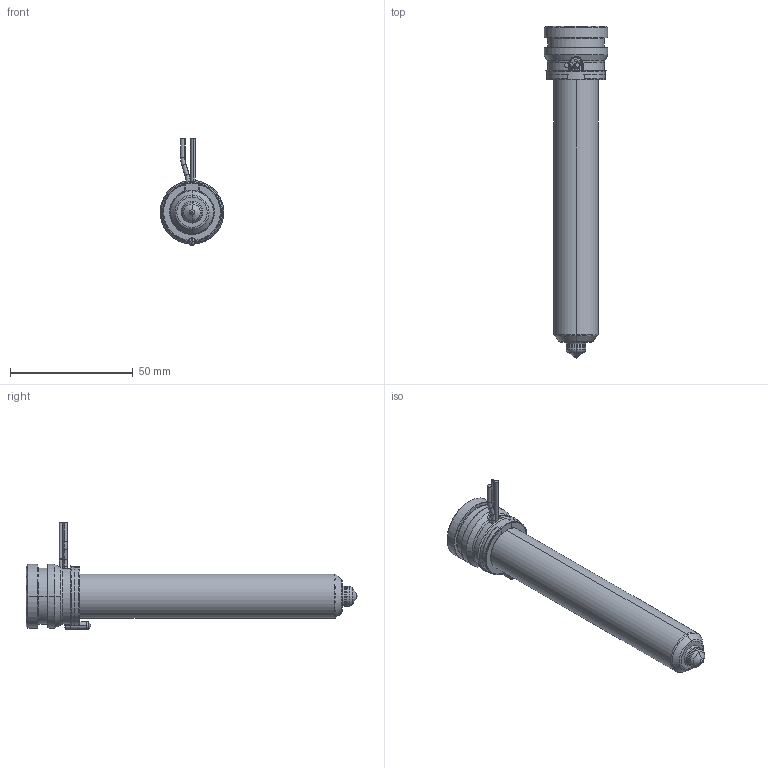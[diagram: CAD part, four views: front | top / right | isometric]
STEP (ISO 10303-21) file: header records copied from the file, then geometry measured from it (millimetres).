
FILE_DESCRIPTION((''),'2;1');
FILE_NAME('MPN-08-24-TX8-116-A','2026-02-05T11:54:46',('UPTIO'),('Thermoplay S.p.A.'),'CREO PARAMETRIC BY PTC INC, 2023494','CREO PARAMETRIC BY PTC INC, 2023494','');
FILE_SCHEMA(('CONFIG_CONTROL_DESIGN','SHAPE_APPEARANCE_LAYERS_GROUPS'));
Length unit declared in the file: millimetre
Products named in the file (1): MPN-08-24-TX8-116-A
Bounding box: 26 x 135.5 x 43.5 mm (x, y, z)
Volume: 26143.5 mm3; surface area: 33337 mm2
Topology: 2 solids, 3 shells, 548 faces, 1458 edges, 904 vertices
Faces by surface type: cylinder 180, plane 144, bspline 82, torus 64, cone 60, sphere 12, extrusion 6
Entity records: 29099 total; most frequent: CARTESIAN_POINT 12753, ORIENTED_EDGE 2896, DIRECTION 2574, EDGE_CURVE 1448, AXIS2_PLACEMENT_3D 1006, VERTEX_POINT 904, EDGE_LOOP 576, VECTOR 562
